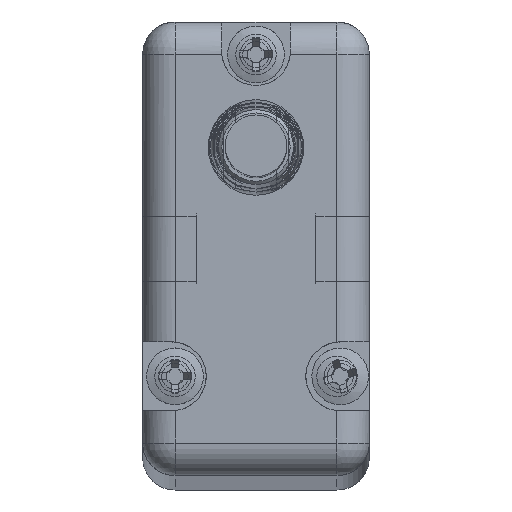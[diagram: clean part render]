
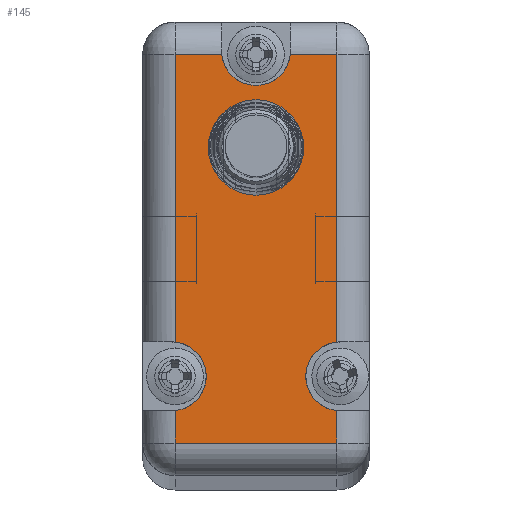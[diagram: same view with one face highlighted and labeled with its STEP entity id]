
A CAD part, top view. The second image highlights one B-rep face of the part: STEP entity #145.
In plain terms, the highlighted planar face has unit normal (0, 0, 1) as drawn and (1, 0, 0) by its records, which use the part's own axes.
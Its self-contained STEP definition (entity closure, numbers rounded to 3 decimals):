
#145 = ADVANCED_FACE ( 'NONE', ( #4535 ), #5552, .F. ) ;
#248 = AXIS2_PLACEMENT_3D ( 'NONE', #5517, #5520, #5550 ) ;
#667 = ORIENTED_EDGE ( 'NONE', *, *, #2421, .T. ) ;
#668 = ORIENTED_EDGE ( 'NONE', *, *, #2418, .F. ) ;
#669 = ORIENTED_EDGE ( 'NONE', *, *, #2415, .T. ) ;
#670 = ORIENTED_EDGE ( 'NONE', *, *, #2419, .F. ) ;
#671 = ORIENTED_EDGE ( 'NONE', *, *, #2423, .T. ) ;
#673 = ORIENTED_EDGE ( 'NONE', *, *, #2422, .T. ) ;
#675 = ORIENTED_EDGE ( 'NONE', *, *, #2424, .T. ) ;
#677 = ORIENTED_EDGE ( 'NONE', *, *, #2425, .F. ) ;
#681 = ORIENTED_EDGE ( 'NONE', *, *, #2426, .T. ) ;
#683 = ORIENTED_EDGE ( 'NONE', *, *, #2427, .T. ) ;
#1260 = AXIS2_PLACEMENT_3D ( 'NONE', #4010, #3953, #3946 ) ;
#1264 = AXIS2_PLACEMENT_3D ( 'NONE', #4048, #4028, #4027 ) ;
#1278 = AXIS2_PLACEMENT_3D ( 'NONE', #4024, #4020, #4016 ) ;
#1360 = CARTESIAN_POINT ( 'NONE',  ( 5.5, 12., 2. ) ) ;
#1378 = CARTESIAN_POINT ( 'NONE',  ( 5.5, 12., 4.884 ) ) ;
#1400 = CARTESIAN_POINT ( 'NONE',  ( 5.5, -5.759, 12. ) ) ;
#2415 = EDGE_CURVE ( 'NONE', #7206, #7363, #6935, .T. ) ;
#2418 = EDGE_CURVE ( 'NONE', #7297, #7326, #6928, .T. ) ;
#2419 = EDGE_CURVE ( 'NONE', #7209, #7363, #6926, .T. ) ;
#2421 = EDGE_CURVE ( 'NONE', #7297, #7206, #6925, .T. ) ;
#2422 = EDGE_CURVE ( 'NONE', #7273, #7217, #6923, .T. ) ;
#2423 = EDGE_CURVE ( 'NONE', #7209, #7273, #6921, .T. ) ;
#2424 = EDGE_CURVE ( 'NONE', #7217, #7265, #6919, .T. ) ;
#2425 = EDGE_CURVE ( 'NONE', #7202, #7265, #6915, .T. ) ;
#2426 = EDGE_CURVE ( 'NONE', #7202, #7318, #6916, .T. ) ;
#2427 = EDGE_CURVE ( 'NONE', #7318, #7326, #6914, .T. ) ;
#2732 = CARTESIAN_POINT ( 'NONE',  ( 5.5, 12., 9.116 ) ) ;
#2756 = CARTESIAN_POINT ( 'NONE',  ( 5.5, -12., 12. ) ) ;
#2764 = CARTESIAN_POINT ( 'NONE',  ( 5.5, -9.991, 2. ) ) ;
#2812 = CARTESIAN_POINT ( 'NONE',  ( 5.5, -12., 2. ) ) ;
#2820 = CARTESIAN_POINT ( 'NONE',  ( 5.5, -9.991, 12. ) ) ;
#2823 = CARTESIAN_POINT ( 'NONE',  ( 5.5, 12., 12. ) ) ;
#2827 = CARTESIAN_POINT ( 'NONE',  ( 5.5, -5.759, 2. ) ) ;
#3927 = DIRECTION ( 'NONE',  ( 0., 0., 1. ) ) ;
#3930 = CARTESIAN_POINT ( 'NONE',  ( 5.5, 12., 14. ) ) ;
#3939 = DIRECTION ( 'NONE',  ( 0., 1., 0. ) ) ;
#3946 = DIRECTION ( 'NONE',  ( 0., -1., 0. ) ) ;
#3953 = DIRECTION ( 'NONE',  ( 1., 0., 0. ) ) ;
#3961 = DIRECTION ( 'NONE',  ( 0., 1., 0. ) ) ;
#3965 = CARTESIAN_POINT ( 'NONE',  ( 5.5, 14., 2. ) ) ;
#3971 = DIRECTION ( 'NONE',  ( 0., -1., 0. ) ) ;
#3974 = CARTESIAN_POINT ( 'NONE',  ( 5.5, -14., 12. ) ) ;
#3982 = DIRECTION ( 'NONE',  ( 0., 0., -1. ) ) ;
#3985 = CARTESIAN_POINT ( 'NONE',  ( 5.5, -12., 14. ) ) ;
#3992 = DIRECTION ( 'NONE',  ( 0., 0., 1. ) ) ;
#3996 = CARTESIAN_POINT ( 'NONE',  ( 5.5, 12., 14. ) ) ;
#4010 = CARTESIAN_POINT ( 'NONE',  ( 5.5, -7.875, 1.8 ) ) ;
#4016 = DIRECTION ( 'NONE',  ( 0., 1., 0. ) ) ;
#4020 = DIRECTION ( 'NONE',  ( 1., 0., 0. ) ) ;
#4024 = CARTESIAN_POINT ( 'NONE',  ( 5.5, -7.875, 12.2 ) ) ;
#4027 = DIRECTION ( 'NONE',  ( 0., 1., 0. ) ) ;
#4028 = DIRECTION ( 'NONE',  ( 1., 0., 0. ) ) ;
#4048 = CARTESIAN_POINT ( 'NONE',  ( 5.5, 12.2, 7. ) ) ;
#4049 = CARTESIAN_POINT ( 'NONE',  ( 5.5, 14., 2. ) ) ;
#4058 = DIRECTION ( 'NONE',  ( 0., -1., 0. ) ) ;
#4062 = CARTESIAN_POINT ( 'NONE',  ( 5.5, -5.75, 12. ) ) ;
#4535 = FACE_OUTER_BOUND ( 'NONE', #4856, .T. ) ;
#4856 = EDGE_LOOP ( 'NONE', ( #668, #667, #669, #670, #671, #673, #675, #677, #681, #683 ) ) ;
#5517 = CARTESIAN_POINT ( 'NONE',  ( 5.5, 14., 14. ) ) ;
#5520 = DIRECTION ( 'NONE',  ( -1., 0., 0. ) ) ;
#5550 = DIRECTION ( 'NONE',  ( 0., -1., 0. ) ) ;
#5552 = PLANE ( 'NONE',  #248 ) ;
#6913 = VECTOR ( 'NONE', #3927, 1000. ) ;
#6914 = LINE ( 'NONE', #3930, #6913 ) ;
#6915 = CIRCLE ( 'NONE', #1260, 2.125 ) ;
#6916 = LINE ( 'NONE', #4049, #6932 ) ;
#6918 = VECTOR ( 'NONE', #3961, 1000. ) ;
#6919 = LINE ( 'NONE', #3965, #6918 ) ;
#6920 = VECTOR ( 'NONE', #3971, 1000. ) ;
#6921 = LINE ( 'NONE', #3974, #6920 ) ;
#6922 = VECTOR ( 'NONE', #3982, 1000. ) ;
#6923 = LINE ( 'NONE', #3985, #6922 ) ;
#6924 = VECTOR ( 'NONE', #3992, 1000. ) ;
#6925 = LINE ( 'NONE', #3996, #6924 ) ;
#6926 = CIRCLE ( 'NONE', #1278, 2.125 ) ;
#6928 = CIRCLE ( 'NONE', #1264, 2.125 ) ;
#6932 = VECTOR ( 'NONE', #3939, 1000. ) ;
#6934 = VECTOR ( 'NONE', #4058, 1000. ) ;
#6935 = LINE ( 'NONE', #4062, #6934 ) ;
#7202 = VERTEX_POINT ( 'NONE', #2827 ) ;
#7206 = VERTEX_POINT ( 'NONE', #2823 ) ;
#7209 = VERTEX_POINT ( 'NONE', #2820 ) ;
#7217 = VERTEX_POINT ( 'NONE', #2812 ) ;
#7265 = VERTEX_POINT ( 'NONE', #2764 ) ;
#7273 = VERTEX_POINT ( 'NONE', #2756 ) ;
#7297 = VERTEX_POINT ( 'NONE', #2732 ) ;
#7318 = VERTEX_POINT ( 'NONE', #1360 ) ;
#7326 = VERTEX_POINT ( 'NONE', #1378 ) ;
#7363 = VERTEX_POINT ( 'NONE', #1400 ) ;
